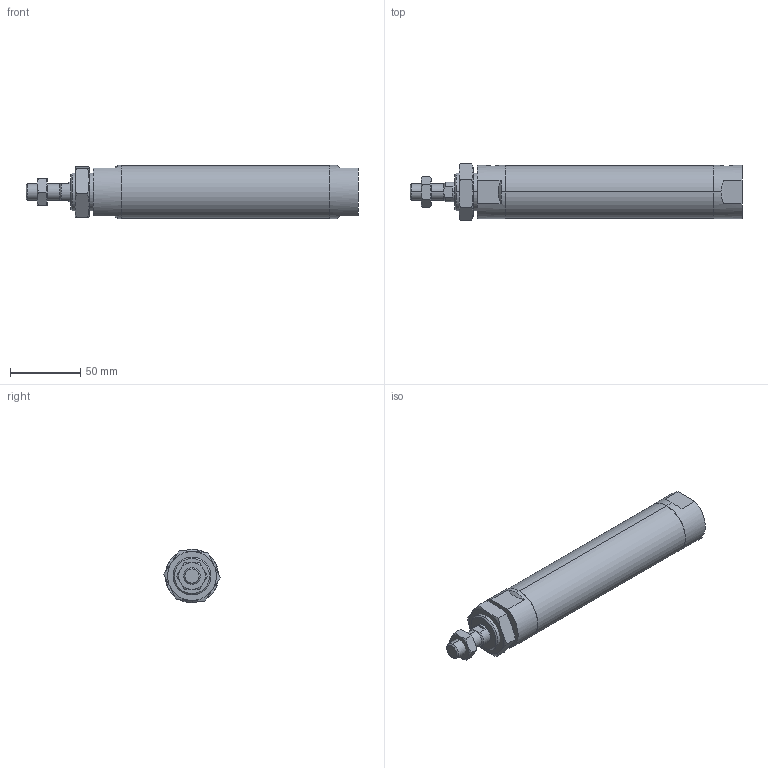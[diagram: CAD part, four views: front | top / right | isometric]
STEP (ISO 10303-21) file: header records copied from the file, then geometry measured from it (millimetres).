
FILE_DESCRIPTION (( 'STEP AP203' ), '1' );
FILE_NAME ('JGND2-32-100-N.STEP', '2016-08-04T02:52:29', ( '' ), ( '' ), 'SwSTEP 2.0', 'SolidWorks 2014', '' );
FILE_SCHEMA (( 'CONFIG_CONTROL_DESIGN' ));
Length unit declared in the file: millimetre
Products named in the file (4): J#2-32-100(P); JGND2-32-100-N
Assembly tree (3 placements, depth 2):
  JGND2-32-100-N
    J#2-32-100(P)
    (unnamed)
    (unnamed)
Bounding box: 237 x 40.33 x 38 mm (x, y, z)
Volume: 226817.8 mm3; surface area: 32528.4 mm2
Topology: 3 solids, 3 shells, 89 faces, 200 edges, 119 vertices
Faces by surface type: plane 32, torus 24, cylinder 20, cone 13
Entity records: 3321 total; most frequent: CARTESIAN_POINT 1017, DIRECTION 395, ORIENTED_EDGE 392, EDGE_CURVE 196, AXIS2_PLACEMENT_3D 167, VERTEX_POINT 119, EDGE_LOOP 99, FACE_OUTER_BOUND 89
